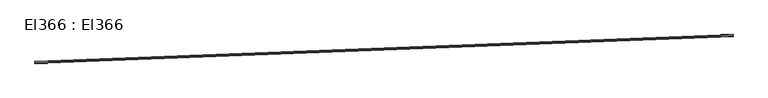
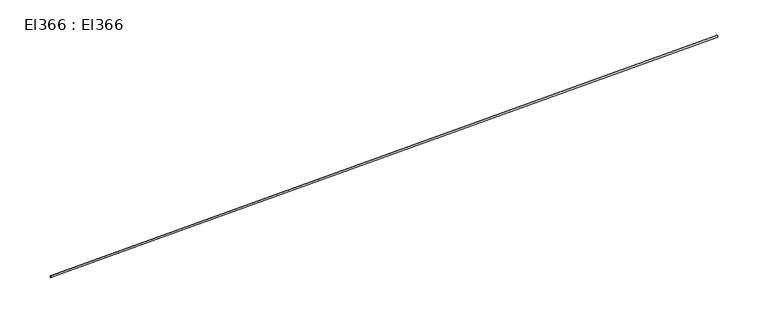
"""IFC4 building model written with IfcOpenShell, lengths in millimetres: cable carrier segment geometry, El366 : El366."""

from ifc_helpers import new_model, si_unit, point, frame, frame_2d, origin, place, context, project, spatial, circle_curve, trimmed, segment, composite_curve, outline, extrude, source, transform, mapped, element, save


def el366_el366_5661b4e5(model_context):
    return source(origin(), model_context, "Body", "SweptSolid", [
        extrude(outline(composite_curve([segment(trimmed(circle_curve(frame_2d((0.0, -9.5)), 9.5), [point((0.0, -19.0))], [point((0.0, 0.0))], False, "CARTESIAN"), True, "CONTINUOUS"), segment(trimmed(circle_curve(frame_2d((0.0, -9.5)), 9.5), [point((0.0, 0.0))], [point((0.0, -19.0))], False, "CARTESIAN"), True, "CONTINUOUS")], self_intersect=False)), frame((3201.16, 7804.341, 9.5), z_axis=(0.9992544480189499, 0.03860761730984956, 0.0), x_axis=(-0.03860761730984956, 0.9992544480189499, 0.0)), (0.0, 0.0, 1.0), 7917.02),
    ])


if __name__ == "__main__":
    model = new_model("IFC4")
    model_context = context("Model", 3, world=origin())
    ifc_project = project(units=[si_unit("LENGTHUNIT", "METRE", prefix="MILLI")], contexts=[model_context])
    site = spatial("IfcSite", under=ifc_project)
    building = spatial("IfcBuilding", under=site)
    placement = place(None, origin())
    el366_el366_shape = el366_el366_5661b4e5(model_context)
    element("IfcCableCarrierSegment", 1, ObjectType="El366 : El366", at=placement, inside=building, context=model_context, shape_type="MappedRepresentation", body=[
        mapped(el366_el366_shape, transform((0.0, 0.0, 0.0), x_axis=(1.0, 0.0, 0.0), y_axis=(0.0, 1.0, 0.0), z_axis=(0.0, 0.0, 1.0))),
    ])
    save(model, "model.ifc")
